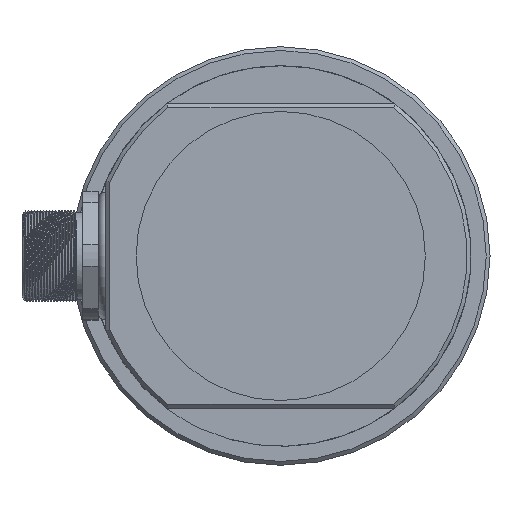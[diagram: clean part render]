
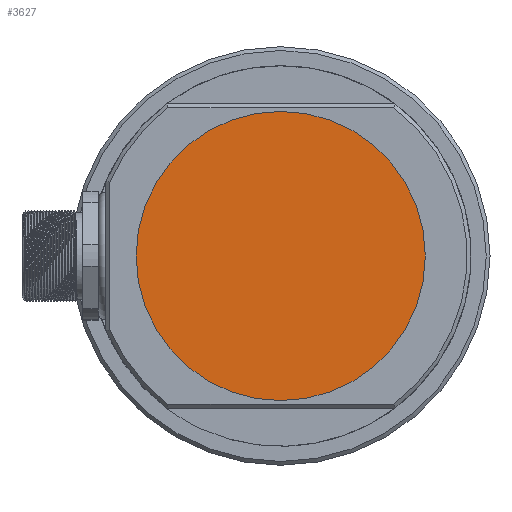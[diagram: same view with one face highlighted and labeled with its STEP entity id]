
A CAD part, left-side view. The second image highlights one B-rep face of the part: STEP entity #3627.
In plain terms, the highlighted planar face has unit normal (-1, 0, 0).
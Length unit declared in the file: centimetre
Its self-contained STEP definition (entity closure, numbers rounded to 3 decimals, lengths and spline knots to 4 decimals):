
#1122=PLANE('',#3884);
#1314=VERTEX_POINT('',#4304);
#1574=CIRCLE('',#3883,1.9);
#1740=EDGE_CURVE('',#1314,#1314,#1574,.T.);
#2262=ORIENTED_EDGE('',*,*,#1740,.T.);
#3096=EDGE_LOOP('',(#2262));
#3374=FACE_BOUND('',#3096,.T.);
#3627=ADVANCED_FACE('',(#3374),#1122,.T.);
#3883=AXIS2_PLACEMENT_3D('',#4303,#18780,#18781);
#3884=AXIS2_PLACEMENT_3D('',#4305,#18782,$);
#4303=CARTESIAN_POINT('',(0.1,0.,0.));
#4304=CARTESIAN_POINT('',(0.1,0.,1.9));
#4305=CARTESIAN_POINT('',(0.1,0.,0.));
#18780=DIRECTION('',(-1.,0.,0.));
#18781=DIRECTION('',(0.,0.,1.9));
#18782=DIRECTION('',(-1.,0.,0.));
